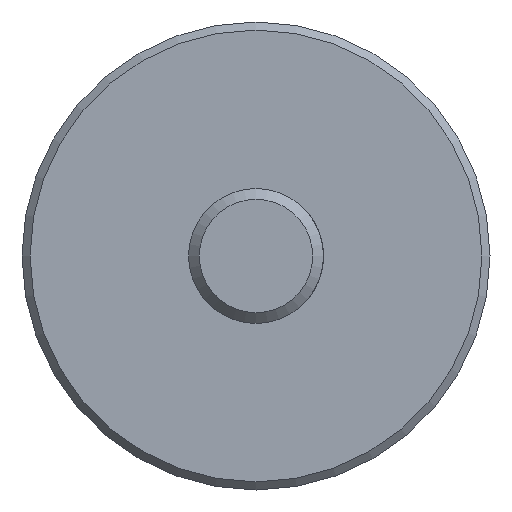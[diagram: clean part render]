
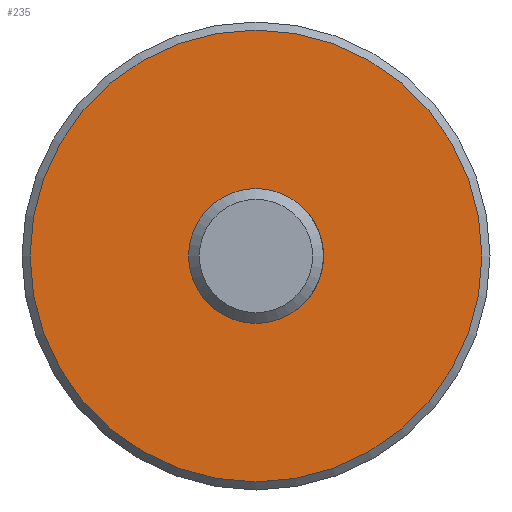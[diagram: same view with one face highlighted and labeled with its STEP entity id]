
A CAD part, front view. The second image highlights one B-rep face of the part: STEP entity #235.
In plain terms, the highlighted planar face has unit normal (0, -1, 0).
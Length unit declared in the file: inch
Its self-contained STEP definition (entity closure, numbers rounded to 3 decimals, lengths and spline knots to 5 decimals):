
#34 = DIRECTION ( 'NONE',  ( 0., 0., 1. ) ) ;
#65 = CARTESIAN_POINT ( 'NONE',  ( 0.375, 3.35, 0. ) ) ;
#67 = VERTEX_POINT ( 'NONE', #282 ) ;
#76 = AXIS2_PLACEMENT_3D ( 'NONE', #483, #83, #262 ) ;
#83 = DIRECTION ( 'NONE',  ( 0., 1., 0. ) ) ;
#110 = EDGE_LOOP ( 'NONE', ( #465 ) ) ;
#132 = AXIS2_PLACEMENT_3D ( 'NONE', #65, #245, #380 ) ;
#181 = VERTEX_POINT ( 'NONE', #319 ) ;
#190 = CARTESIAN_POINT ( 'NONE',  ( 0., 3.35, 0. ) ) ;
#191 = ORIENTED_EDGE ( 'NONE', *, *, #312, .F. ) ;
#235 = ADVANCED_FACE ( 'NONE', ( #334, #552 ), #374, .F. ) ;
#245 = DIRECTION ( 'NONE',  ( 0., 1., 0. ) ) ;
#262 = DIRECTION ( 'NONE',  ( 0., 0., 1. ) ) ;
#282 = CARTESIAN_POINT ( 'NONE',  ( 0., 3.35, 0.375 ) ) ;
#286 = EDGE_LOOP ( 'NONE', ( #191 ) ) ;
#298 = CIRCLE ( 'NONE', #76, 0.375 ) ;
#312 = EDGE_CURVE ( 'NONE', #181, #181, #413, .T. ) ;
#319 = CARTESIAN_POINT ( 'NONE',  ( 0., 3.35, 1.255 ) ) ;
#334 = FACE_OUTER_BOUND ( 'NONE', #286, .T. ) ;
#346 = EDGE_CURVE ( 'NONE', #67, #67, #298, .T. ) ;
#374 = PLANE ( 'NONE',  #132 ) ;
#380 = DIRECTION ( 'NONE',  ( 0., 0., 1. ) ) ;
#413 = CIRCLE ( 'NONE', #490, 1.255 ) ;
#415 = DIRECTION ( 'NONE',  ( 0., 1., 0. ) ) ;
#465 = ORIENTED_EDGE ( 'NONE', *, *, #346, .T. ) ;
#483 = CARTESIAN_POINT ( 'NONE',  ( 0., 3.35, 0. ) ) ;
#490 = AXIS2_PLACEMENT_3D ( 'NONE', #190, #415, #34 ) ;
#552 = FACE_BOUND ( 'NONE', #110, .T. ) ;
